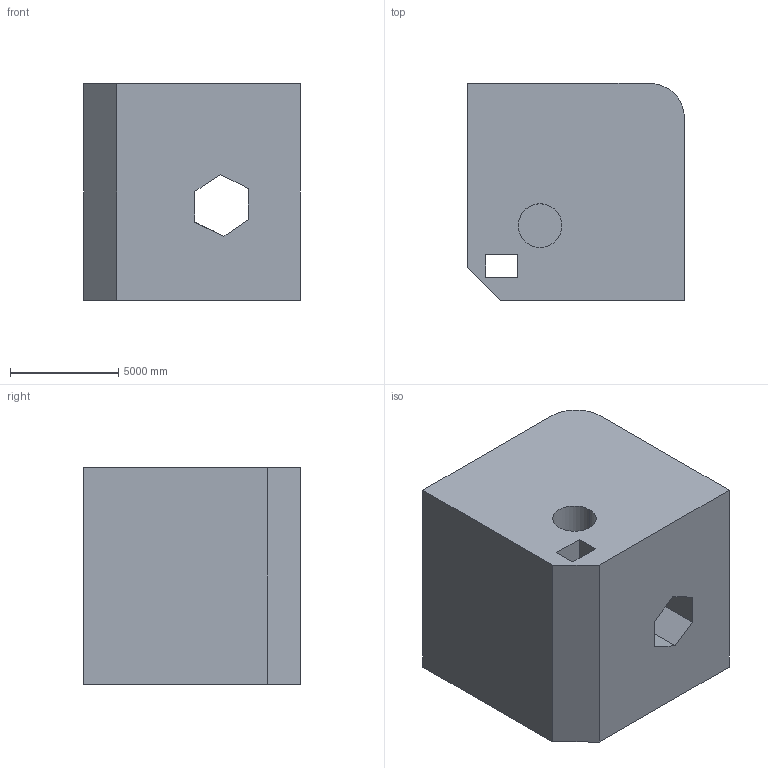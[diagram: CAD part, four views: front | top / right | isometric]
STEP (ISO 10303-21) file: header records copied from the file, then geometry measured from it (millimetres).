
FILE_DESCRIPTION (( 'STEP AP203' ), '1' );
FILE_NAME ('318.STEP', '2022-09-07T12:49:57', ( 'user' ), ( '' ), 'SwSTEP 2.0', 'SolidWorks 2021', '' );
FILE_SCHEMA (( 'CONFIG_CONTROL_DESIGN' ));
Length unit declared in the file: centimetre
Products named in the file (1): 318
Bounding box: 10000 x 10000 x 10000 mm (x, y, z)
Volume: 879773809998.8 mm3; surface area: 750579559.8 mm2
Topology: 1 solids, 1 shells, 24 faces, 66 edges, 44 vertices
Faces by surface type: plane 19, cylinder 5
Entity records: 849 total; most frequent: CARTESIAN_POINT 141, ORIENTED_EDGE 132, DIRECTION 124, EDGE_CURVE 66, VECTOR 54, LINE 54, VERTEX_POINT 44, AXIS2_PLACEMENT_3D 35
